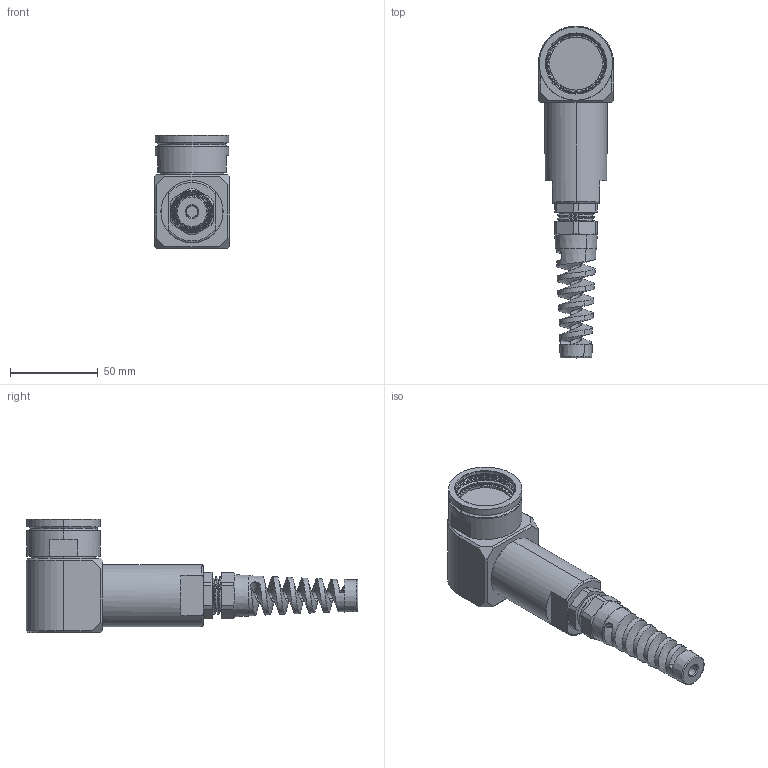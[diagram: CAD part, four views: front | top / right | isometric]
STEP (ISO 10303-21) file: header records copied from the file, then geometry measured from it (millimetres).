
FILE_DESCRIPTION (( 'STEP AP214' ), '1' );
FILE_NAME ('Q38EBSHELL-90X-23-XXXX-GB.STEP', '2025-09-22T15:18:30', ( '' ), ( '' ), 'SwSTEP 2.0', 'SolidWorks 2024', '' );
FILE_SCHEMA (( 'AUTOMOTIVE_DESIGN' ));
Length unit declared in the file: millimetre
Products named in the file (1): Q38EBSHELL-90X-23-XXXX-GB
Bounding box: 42.8 x 189.03 x 64.41 mm (x, y, z)
Volume: 165622.7 mm3; surface area: 33327.3 mm2
Topology: 2 solids, 4 shells, 374 faces, 1139 edges, 790 vertices
Faces by surface type: plane 221, cylinder 80, cone 47, torus 13, bspline 13
Entity records: 19728 total; most frequent: CARTESIAN_POINT 10212, ORIENTED_EDGE 2278, DIRECTION 1736, EDGE_CURVE 1139, VERTEX_POINT 790, AXIS2_PLACEMENT_3D 690, EDGE_LOOP 395, ADVANCED_FACE 374
